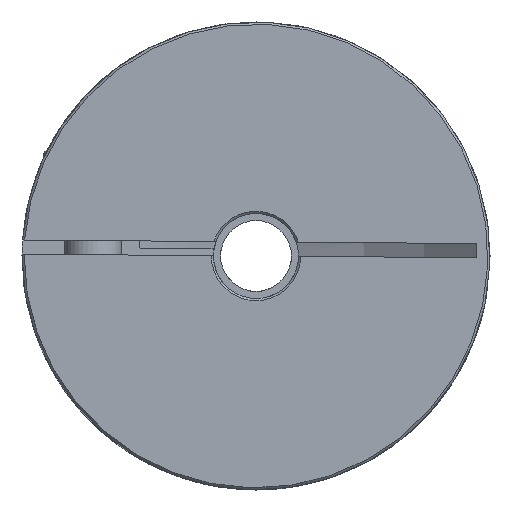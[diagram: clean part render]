
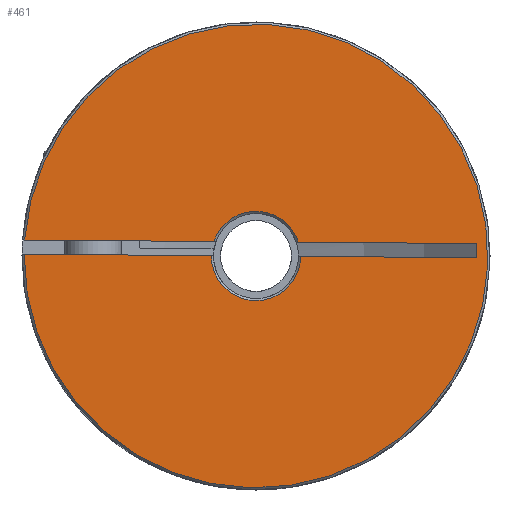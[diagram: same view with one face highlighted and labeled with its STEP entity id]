
A CAD part, left-side view. The second image highlights one B-rep face of the part: STEP entity #461.
In plain terms, the highlighted planar face has unit normal (-1, 0, 0) as drawn and (0, 0, 1) by its records, which use the part's own axes.
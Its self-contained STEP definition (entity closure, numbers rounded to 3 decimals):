
#461 = ADVANCED_FACE( 'NONE', ( #978 ), #979, .T. );
#978 = FACE_OUTER_BOUND( '', #1587, .T. );
#979 = PLANE( '', #1588 );
#1587 = EDGE_LOOP( '', ( #2596, #2597, #2598, #2599, #2600, #2601, #2602, #2603 ) );
#1588 = AXIS2_PLACEMENT_3D( '', #2604, #2605, #2606 );
#2596 = ORIENTED_EDGE( '', *, *, #3262, .F. );
#2597 = ORIENTED_EDGE( '', *, *, #3575, .T. );
#2598 = ORIENTED_EDGE( '', *, *, #3302, .F. );
#2599 = ORIENTED_EDGE( '', *, *, #3485, .T. );
#2600 = ORIENTED_EDGE( '', *, *, #3398, .T. );
#2601 = ORIENTED_EDGE( '', *, *, #3576, .T. );
#2602 = ORIENTED_EDGE( '', *, *, #3572, .T. );
#2603 = ORIENTED_EDGE( '', *, *, #3523, .F. );
#2604 = CARTESIAN_POINT( '', ( 0., 0., 29. ) );
#2605 = DIRECTION( '', ( 0., 0., 1. ) );
#2606 = DIRECTION( '', ( 1., 0., 0. ) );
#3262 = EDGE_CURVE( 'NONE', #3806, #3808, #3809, .F. );
#3302 = EDGE_CURVE( 'NONE', #3870, #3871, #3872, .F. );
#3398 = EDGE_CURVE( 'NONE', #4030, #4028, #4031, .T. );
#3485 = EDGE_CURVE( 'NONE', #3870, #4030, #4168, .T. );
#3523 = EDGE_CURVE( 'NONE', #3808, #4217, #4218, .F. );
#3572 = EDGE_CURVE( 'NONE', #4284, #4217, #4285, .T. );
#3575 = EDGE_CURVE( 'NONE', #3806, #3871, #4288, .F. );
#3576 = EDGE_CURVE( 'NONE', #4028, #4284, #4289, .F. );
#3806 = VERTEX_POINT( 'NONE', #4547 );
#3808 = VERTEX_POINT( 'NONE', #4550 );
#3809 = LINE( '', #4551, #4552 );
#3870 = VERTEX_POINT( 'NONE', #4629 );
#3871 = VERTEX_POINT( 'NONE', #4630 );
#3872 = LINE( '', #4631, #4632 );
#4028 = VERTEX_POINT( 'NONE', #4869 );
#4030 = VERTEX_POINT( 'NONE', #4874 );
#4031 = LINE( '', #4875, #4876 );
#4168 = CIRCLE( '', #5123, 32.7 );
#4217 = VERTEX_POINT( 'NONE', #5258 );
#4218 = LINE( '', #5259, #5260 );
#4284 = VERTEX_POINT( 'NONE', #5337 );
#4285 = LINE( '', #5338, #5339 );
#4288 = CIRCLE( '', #5345, 6.3 );
#4289 = CIRCLE( '', #5346, 6.3 );
#4547 = CARTESIAN_POINT( '', ( -6.3, 0., 29. ) );
#4550 = CARTESIAN_POINT( '', ( -31.103, 0., 29. ) );
#4551 = CARTESIAN_POINT( '', ( 16.5, 0., 29. ) );
#4552 = VECTOR( '', #5733, 1000. );
#4629 = CARTESIAN_POINT( '', ( 32.7, 0., 29. ) );
#4630 = CARTESIAN_POINT( '', ( 6.3, 0., 29. ) );
#4631 = CARTESIAN_POINT( '', ( 16.5, 0., 29. ) );
#4632 = VECTOR( '', #5786, 1000. );
#4869 = CARTESIAN_POINT( '', ( 5.974, -2., 29. ) );
#4874 = CARTESIAN_POINT( '', ( 32.639, -2., 29. ) );
#4875 = CARTESIAN_POINT( '', ( 0., -2., 29. ) );
#4876 = VECTOR( '', #5961, 1000. );
#5123 = AXIS2_PLACEMENT_3D( '', #6118, #6119, #6120 );
#5258 = CARTESIAN_POINT( '', ( -31.103, -2., 29. ) );
#5259 = CARTESIAN_POINT( '', ( -31.103, -2., 29. ) );
#5260 = VECTOR( '', #6161, 1000. );
#5337 = CARTESIAN_POINT( '', ( -5.974, -2., 29. ) );
#5338 = CARTESIAN_POINT( '', ( 0., -2., 29. ) );
#5339 = VECTOR( '', #6248, 1000. );
#5345 = AXIS2_PLACEMENT_3D( '', #6249, #6250, #6251 );
#5346 = AXIS2_PLACEMENT_3D( '', #6252, #6253, #6254 );
#5733 = DIRECTION( '', ( 1., 0., 0. ) );
#5786 = DIRECTION( '', ( 1., 0., 0. ) );
#5961 = DIRECTION( '', ( -1., 0., 0. ) );
#6118 = CARTESIAN_POINT( '', ( 0., 0., 29. ) );
#6119 = DIRECTION( '', ( 0., 0., 1. ) );
#6120 = DIRECTION( '', ( 1., 0., 0. ) );
#6161 = DIRECTION( '', ( 0., 1., 0. ) );
#6248 = DIRECTION( '', ( -1., 0., 0. ) );
#6249 = CARTESIAN_POINT( '', ( 0., 0., 29. ) );
#6250 = DIRECTION( '', ( 0., 0., 1. ) );
#6251 = DIRECTION( '', ( 1., 0., 0. ) );
#6252 = CARTESIAN_POINT( '', ( 0., 0., 29. ) );
#6253 = DIRECTION( '', ( 0., 0., 1. ) );
#6254 = DIRECTION( '', ( 1., 0., 0. ) );
